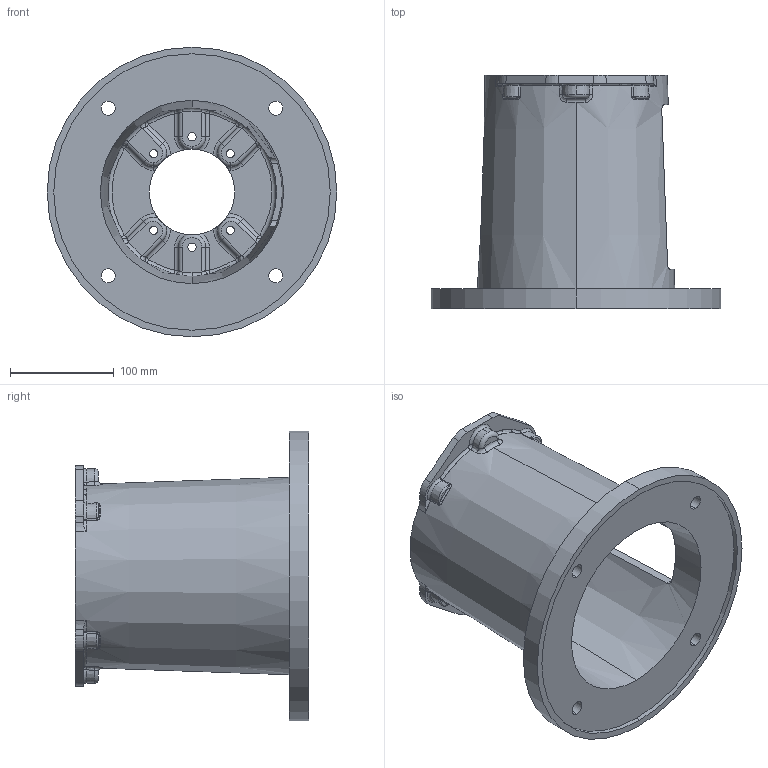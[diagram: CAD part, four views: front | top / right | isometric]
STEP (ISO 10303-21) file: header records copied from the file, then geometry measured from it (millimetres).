
FILE_DESCRIPTION (( 'STEP AP203' ), '1' );
FILE_NAME ('M284862A.STEP', '2007-12-21T20:56:54', ( 'Chris McCoy' ), ( 'Magnaloy Coupling Co' ), 'SwSTEP 2.0', 'SolidWorks 2007', '' );
FILE_SCHEMA (( 'CONFIG_CONTROL_DESIGN' ));
Length unit declared in the file: inch
Products named in the file (1): M284862A
Bounding box: 279.4 x 225.3 x 279.4 mm (x, y, z)
Volume: 1565205.5 mm3; surface area: 358275.5 mm2
Topology: 1 solids, 1 shells, 355 faces, 902 edges, 531 vertices
Faces by surface type: torus 107, cylinder 86, bspline 64, plane 50, sphere 24, cone 24
Entity records: 14607 total; most frequent: CARTESIAN_POINT 6449, ORIENTED_EDGE 1764, DIRECTION 1696, EDGE_CURVE 882, AXIS2_PLACEMENT_3D 768, VERTEX_POINT 531, CIRCLE 476, EDGE_LOOP 381
